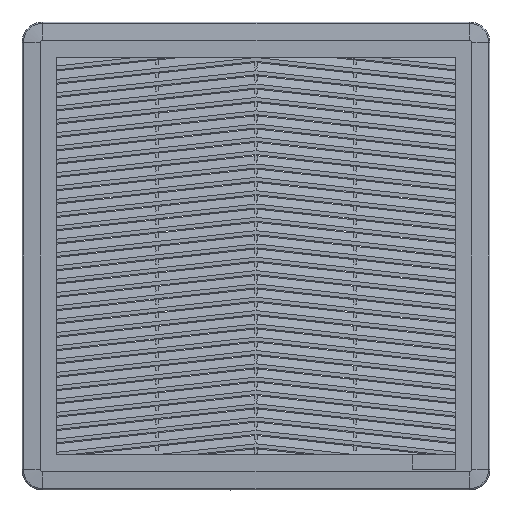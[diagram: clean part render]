
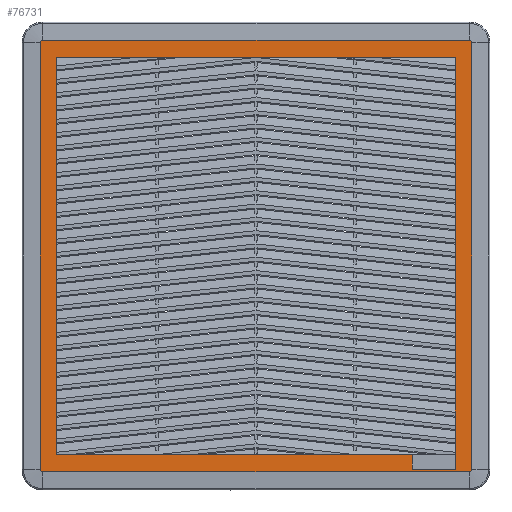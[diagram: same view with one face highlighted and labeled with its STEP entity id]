
A CAD part, front view. The second image highlights one B-rep face of the part: STEP entity #76731.
In plain terms, the highlighted planar face has unit normal (0, -1, 0).
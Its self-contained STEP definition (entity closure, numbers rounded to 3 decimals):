
#62023=CARTESIAN_POINT('',(148.,-34.,
-148.));
#62024=DIRECTION('',(0.,1.,0.));
#62025=DIRECTION('',(1.,0.,0.));
#62026=AXIS2_PLACEMENT_3D('',#62023,#62024,#62025);
#62028=DIRECTION('',(-1.,0.,0.));
#62029=VECTOR('',#62028,296.);
#62030=CARTESIAN_POINT('',(148.,-34.,
-149.794));
#62031=LINE('',#62030,#62029);
#62032=CARTESIAN_POINT('',(-148.,-34.,
-148.));
#62033=DIRECTION('',(0.,1.,0.));
#62034=DIRECTION('',(0.,0.,-1.));
#62035=AXIS2_PLACEMENT_3D('',#62032,#62033,#62034);
#62037=DIRECTION('',(0.,0.,1.));
#62038=VECTOR('',#62037,296.);
#62039=CARTESIAN_POINT('',(-149.794,-34.,
-148.));
#62040=LINE('',#62039,#62038);
#62041=CARTESIAN_POINT('',(-148.,-34.,
148.));
#62042=DIRECTION('',(0.,1.,0.));
#62043=DIRECTION('',(-1.,0.,0.));
#62044=AXIS2_PLACEMENT_3D('',#62041,#62042,#62043);
#62046=DIRECTION('',(1.,0.,0.));
#62047=VECTOR('',#62046,296.);
#62048=CARTESIAN_POINT('',(-148.,-34.,
149.793));
#62049=LINE('',#62048,#62047);
#62050=CARTESIAN_POINT('',(148.,-34.,
148.));
#62051=DIRECTION('',(0.,1.,0.));
#62052=DIRECTION('',(0.,0.,1.));
#62053=AXIS2_PLACEMENT_3D('',#62050,#62051,#62052);
#62063=DIRECTION('',(0.,0.,1.));
#62064=VECTOR('',#62063,296.);
#62065=CARTESIAN_POINT('',(149.794,-34.,
-148.));
#62066=LINE('',#62065,#62064);
#62833=DIRECTION('',(0.,0.,1.));
#62834=VECTOR('',#62833,276.);
#62835=CARTESIAN_POINT('',(-138.5,-34.,
-138.));
#62836=LINE('',#62835,#62834);
#65549=DIRECTION('',(-1.,0.,0.));
#65550=VECTOR('',#65549,247.);
#65551=CARTESIAN_POINT('',(108.5,-34.,
-138.));
#65552=LINE('',#65551,#65550);
#65970=DIRECTION('',(0.,0.,-1.));
#65971=VECTOR('',#65970,286.);
#65972=CARTESIAN_POINT('',(138.5,-34.,
138.));
#65973=LINE('',#65972,#65971);
#66620=DIRECTION('',(1.,0.,0.));
#66621=VECTOR('',#66620,277.);
#66622=CARTESIAN_POINT('',(-138.5,-34.,
138.));
#66623=LINE('',#66622,#66621);
#72676=DIRECTION('',(-1.,0.,0.));
#72677=VECTOR('',#72676,30.);
#72678=CARTESIAN_POINT('',(138.5,-34.,
-148.));
#72679=LINE('',#72678,#72677);
#72700=DIRECTION('',(0.,0.,1.));
#72701=VECTOR('',#72700,10.);
#72702=CARTESIAN_POINT('',(108.5,-34.,
-148.));
#72703=LINE('',#72702,#72701);
#73191=CARTESIAN_POINT('',(-148.,-34.,
-149.794));
#73192=CARTESIAN_POINT('',(-149.794,-34.,
-148.));
#73193=VERTEX_POINT('',#73191);
#73194=VERTEX_POINT('',#73192);
#73199=CARTESIAN_POINT('',(149.794,-34.,
-148.));
#73200=CARTESIAN_POINT('',(148.,-34.,
-149.794));
#73201=VERTEX_POINT('',#73199);
#73202=VERTEX_POINT('',#73200);
#73203=CARTESIAN_POINT('',(-149.794,-34.,
148.));
#73204=VERTEX_POINT('',#73203);
#73205=CARTESIAN_POINT('',(-148.,-34.,
149.793));
#73206=VERTEX_POINT('',#73205);
#73207=CARTESIAN_POINT('',(148.,-34.,
149.793));
#73208=VERTEX_POINT('',#73207);
#73209=CARTESIAN_POINT('',(149.794,-34.,
148.));
#73210=VERTEX_POINT('',#73209);
#73211=CARTESIAN_POINT('',(108.5,-34.,
-148.));
#73212=CARTESIAN_POINT('',(108.5,-34.,
-138.));
#73213=VERTEX_POINT('',#73211);
#73214=VERTEX_POINT('',#73212);
#73215=CARTESIAN_POINT('',(138.5,-34.,
-148.));
#73216=VERTEX_POINT('',#73215);
#73217=CARTESIAN_POINT('',(138.5,-34.,
138.));
#73218=VERTEX_POINT('',#73217);
#73219=CARTESIAN_POINT('',(-138.5,-34.,
138.));
#73220=VERTEX_POINT('',#73219);
#73221=CARTESIAN_POINT('',(-138.5,-34.,
-138.));
#73222=VERTEX_POINT('',#73221);
#76695=CARTESIAN_POINT('',(-149.794,-34.,
-149.794));
#76696=DIRECTION('',(0.,-1.,0.));
#76697=DIRECTION('',(1.,0.,0.));
#76698=AXIS2_PLACEMENT_3D('',#76695,#76696,#76697);
#76699=PLANE('',#76698);
#76701=ORIENTED_EDGE('',*,*,#76700,.T.);
#76703=ORIENTED_EDGE('',*,*,#76702,.T.);
#76704=ORIENTED_EDGE('',*,*,#76684,.T.);
#76706=ORIENTED_EDGE('',*,*,#76705,.T.);
#76708=ORIENTED_EDGE('',*,*,#76707,.T.);
#76710=ORIENTED_EDGE('',*,*,#76709,.T.);
#76712=ORIENTED_EDGE('',*,*,#76711,.T.);
#76714=ORIENTED_EDGE('',*,*,#76713,.F.);
#76715=EDGE_LOOP('',(#76701,#76703,#76704,#76706,#76708,#76710,#76712,#76714));
#76716=FACE_OUTER_BOUND('',#76715,.F.);
#76718=ORIENTED_EDGE('',*,*,#76717,.F.);
#76720=ORIENTED_EDGE('',*,*,#76719,.F.);
#76722=ORIENTED_EDGE('',*,*,#76721,.F.);
#76724=ORIENTED_EDGE('',*,*,#76723,.F.);
#76726=ORIENTED_EDGE('',*,*,#76725,.F.);
#76728=ORIENTED_EDGE('',*,*,#76727,.F.);
#76729=EDGE_LOOP('',(#76718,#76720,#76722,#76724,#76726,#76728));
#76730=FACE_BOUND('',#76729,.F.);
#62027=CIRCLE('',#62026,1.794);
#62036=CIRCLE('',#62035,1.794);
#62045=CIRCLE('',#62044,1.794);
#62054=CIRCLE('',#62053,1.794);
#76684=EDGE_CURVE('',#73193,#73194,#62036,.T.);
#76700=EDGE_CURVE('',#73201,#73202,#62027,.T.);
#76702=EDGE_CURVE('',#73202,#73193,#62031,.T.);
#76705=EDGE_CURVE('',#73194,#73204,#62040,.T.);
#76707=EDGE_CURVE('',#73204,#73206,#62045,.T.);
#76709=EDGE_CURVE('',#73206,#73208,#62049,.T.);
#76711=EDGE_CURVE('',#73208,#73210,#62054,.T.);
#76713=EDGE_CURVE('',#73201,#73210,#62066,.T.);
#76717=EDGE_CURVE('',#73213,#73214,#72703,.T.);
#76719=EDGE_CURVE('',#73216,#73213,#72679,.T.);
#76721=EDGE_CURVE('',#73218,#73216,#65973,.T.);
#76723=EDGE_CURVE('',#73220,#73218,#66623,.T.);
#76725=EDGE_CURVE('',#73222,#73220,#62836,.T.);
#76727=EDGE_CURVE('',#73214,#73222,#65552,.T.);
#76731=ADVANCED_FACE('',(#76716,#76730),#76699,.T.);
